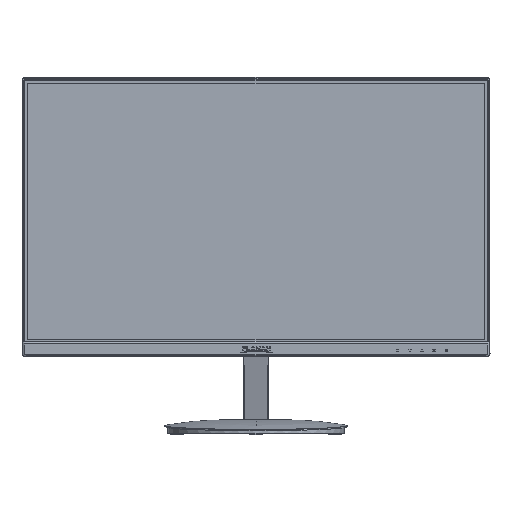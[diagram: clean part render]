
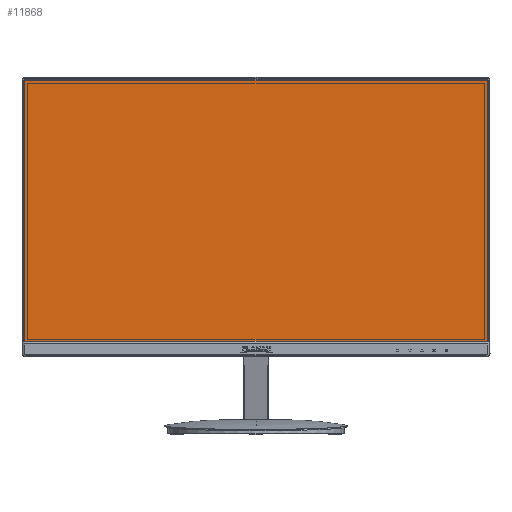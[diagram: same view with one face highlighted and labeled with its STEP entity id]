
A CAD part, top view. The second image highlights one B-rep face of the part: STEP entity #11868.
In plain terms, the highlighted planar face has unit normal (0, 0, 1).
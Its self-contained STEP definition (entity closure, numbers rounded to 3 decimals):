
#11753=DIRECTION('',(0.,1.,0.));
#11754=VECTOR('',#11753,302.26);
#11755=CARTESIAN_POINT('',(-266.52,-151.03,8.558));
#11756=LINE('',#11755,#11754);
#11757=DIRECTION('',(1.,0.,0.));
#11758=VECTOR('',#11757,533.04);
#11759=CARTESIAN_POINT('',(-266.52,151.23,8.558));
#11760=LINE('',#11759,#11758);
#11761=DIRECTION('',(0.,-1.,0.));
#11762=VECTOR('',#11761,302.26);
#11763=CARTESIAN_POINT('',(266.52,151.23,8.558));
#11764=LINE('',#11763,#11762);
#11765=DIRECTION('',(-1.,0.,0.));
#11766=VECTOR('',#11765,533.04);
#11767=CARTESIAN_POINT('',(266.52,-151.03,8.558));
#11768=LINE('',#11767,#11766);
#11777=CARTESIAN_POINT('',(-266.52,151.23,8.558));
#11778=VERTEX_POINT('',#11777);
#11779=CARTESIAN_POINT('',(-266.52,-151.03,8.558));
#11780=VERTEX_POINT('',#11779);
#11781=CARTESIAN_POINT('',(266.52,151.23,8.558));
#11782=VERTEX_POINT('',#11781);
#11783=CARTESIAN_POINT('',(266.52,-151.03,8.558));
#11784=VERTEX_POINT('',#11783);
#11857=CARTESIAN_POINT('',(0.,0.1,8.558));
#11858=DIRECTION('',(0.,0.,1.));
#11859=DIRECTION('',(1.,0.,0.));
#11860=AXIS2_PLACEMENT_3D('',#11857,#11858,#11859);
#11861=PLANE('',#11860);
#11862=ORIENTED_EDGE('',*,*,#11809,.T.);
#11863=ORIENTED_EDGE('',*,*,#11824,.T.);
#11864=ORIENTED_EDGE('',*,*,#11838,.T.);
#11865=ORIENTED_EDGE('',*,*,#11851,.T.);
#11866=EDGE_LOOP('',(#11862,#11863,#11864,#11865));
#11867=FACE_OUTER_BOUND('',#11866,.F.);
#11809=EDGE_CURVE('',#11780,#11778,#11756,.T.);
#11824=EDGE_CURVE('',#11778,#11782,#11760,.T.);
#11838=EDGE_CURVE('',#11782,#11784,#11764,.T.);
#11851=EDGE_CURVE('',#11784,#11780,#11768,.T.);
#11868=ADVANCED_FACE('',(#11867),#11861,.T.);
